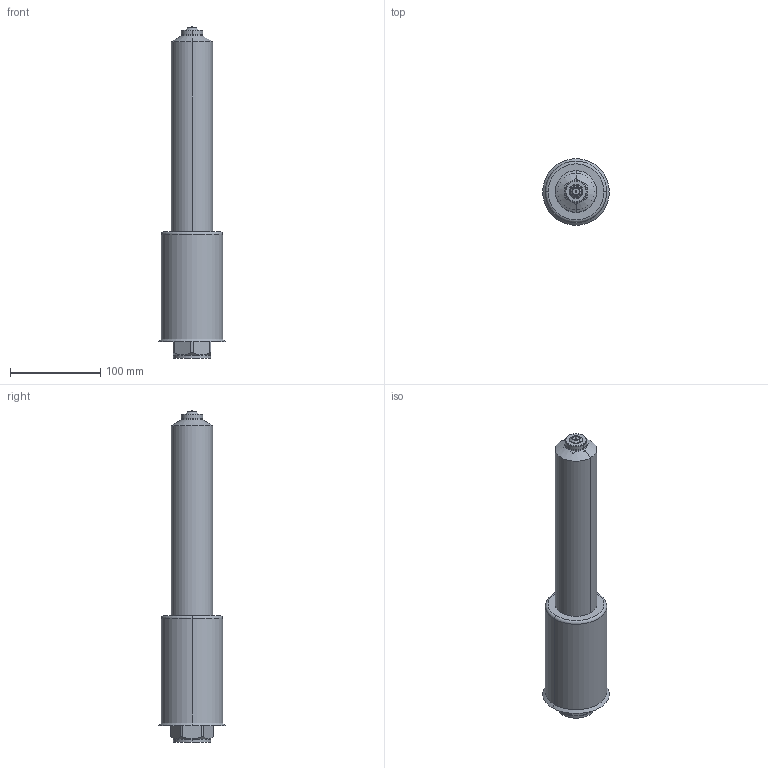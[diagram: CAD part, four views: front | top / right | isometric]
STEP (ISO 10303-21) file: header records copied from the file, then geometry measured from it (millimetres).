
FILE_DESCRIPTION (( 'STEP AP214' ), '1' );
FILE_NAME ('T16_OPEN_350_BAND.STEP', '2009-05-11T13:05:25', ( 'Synventive Molding Solutions' ), ( 'Synventive Molding Solutions' ), 'SwSTEP 2.0', 'SolidWorks 2008', '' );
FILE_SCHEMA (( 'AUTOMOTIVE_DESIGN' ));
Length unit declared in the file: millimetre
Products named in the file (1): T16_OPEN_350_BAND
Bounding box: 74 x 74 x 368 mm (x, y, z)
Volume: 1311389 mm3; surface area: 126761.5 mm2
Topology: 5 solids, 5 shells, 401 faces, 1018 edges, 636 vertices
Faces by surface type: cylinder 154, plane 150, torus 67, cone 22, sphere 4, bspline 4
Entity records: 17868 total; most frequent: CARTESIAN_POINT 3603, DIRECTION 2140, ORIENTED_EDGE 2028, EDGE_CURVE 1014, AXIS2_PLACEMENT_3D 836, VERTEX_POINT 636, LINE 468, VECTOR 468
